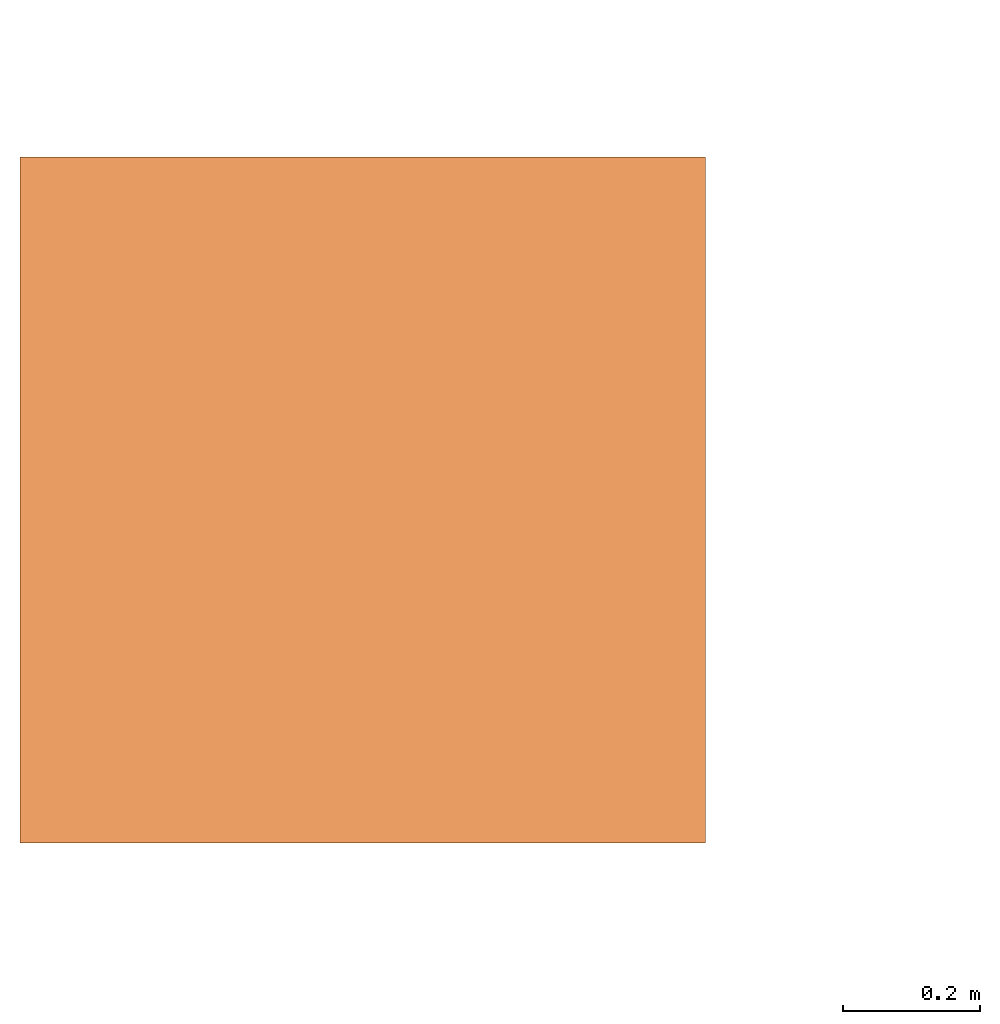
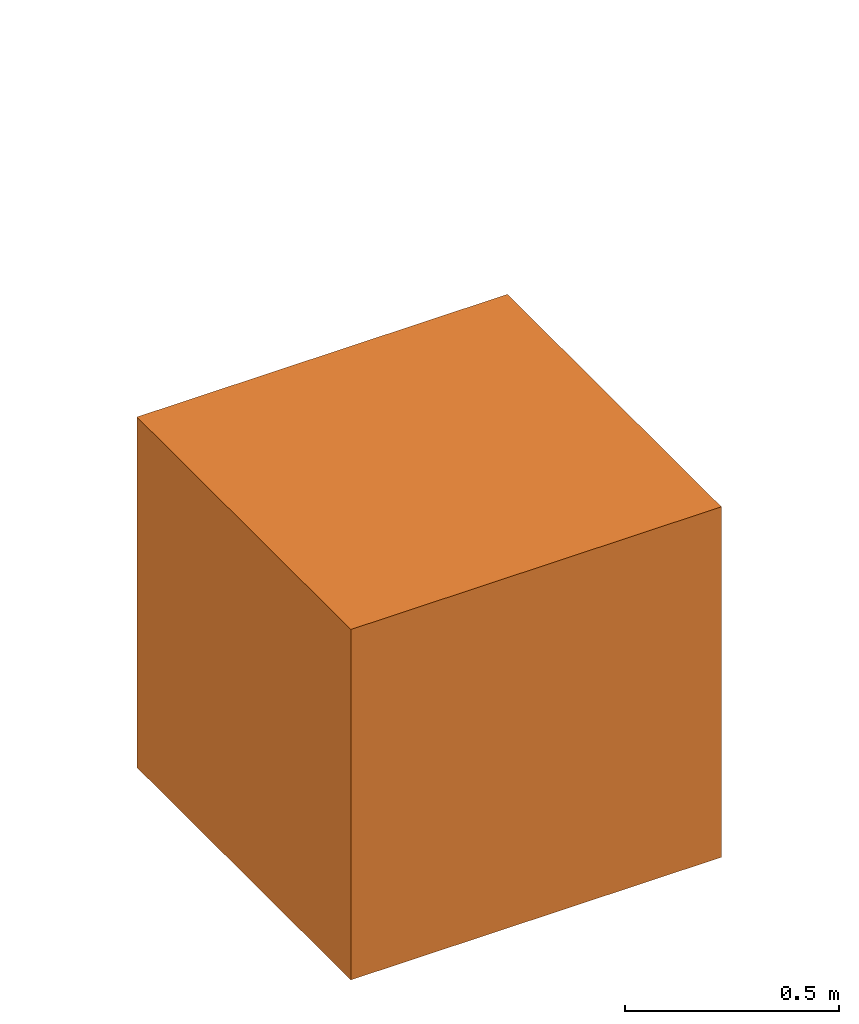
# One storey, part 287 of 301: 2 proxies.
"""IFC2X3 building model written with IfcOpenShell, lengths in millimetres."""

from ifc_helpers import new_model, entity, si_unit, converted_unit, derived_unit, money_unit, direction, frame, origin_with_axes, place, context, subcontext, project, spatial, faceted_brep, source, transform, mapped, type_object, element, save


model = new_model("IFC2X3")

# Units and contexts
model_context = context("Model", 3, precision=0.01, world=origin_with_axes(), true_north=direction((0.0, 1.0)))
body_context = subcontext(model_context, "Body", "Model", "MODEL_VIEW")
ifc_project = project(units=[si_unit("LENGTHUNIT", "METRE", prefix="MILLI"), si_unit("AREAUNIT", "SQUARE_METRE"), si_unit("VOLUMEUNIT", "CUBIC_METRE"), converted_unit("PLANEANGLEUNIT", "DEGREE", entity("IfcPlaneAngleMeasure", 0.0174532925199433), si_unit("PLANEANGLEUNIT", "RADIAN"), dimensions=[0, 0, 0, 0, 0, 0, 0]), money_unit("EUR"), converted_unit("TIMEUNIT", "Year", entity("IfcTimeMeasure", 31557600.0), si_unit("TIMEUNIT", "SECOND"), dimensions=[0, 0, 1, 0, 0, 0, 0]), si_unit("MASSUNIT", "GRAM", prefix="KILO"), si_unit("THERMODYNAMICTEMPERATUREUNIT", "DEGREE_CELSIUS"), si_unit("LUMINOUSINTENSITYUNIT", "LUMEN"), si_unit("ENERGYUNIT", "JOULE", prefix="MEGA"), derived_unit("THERMALCONDUCTANCEUNIT", [(si_unit("POWERUNIT", "WATT"), 1), (si_unit("LENGTHUNIT", "METRE"), -1), (si_unit("THERMODYNAMICTEMPERATUREUNIT", "KELVIN"), -1)]), derived_unit("SPECIFICHEATCAPACITYUNIT", [(si_unit("ENERGYUNIT", "JOULE"), 1), (si_unit("MASSUNIT", "GRAM", prefix="KILO"), -1), (si_unit("THERMODYNAMICTEMPERATUREUNIT", "KELVIN"), -1)]), derived_unit("MASSDENSITYUNIT", [(si_unit("MASSUNIT", "GRAM", prefix="KILO"), 1), (si_unit("VOLUMEUNIT", "CUBIC_METRE"), -1)])], contexts=[model_context])

# Site, building, storey
site_placement = place(None, frame((0.0, 0.0, 8650.0), z_axis=(0.0, 0.0, 1.0), x_axis=(1.0, 0.0, 0.0)))
site = spatial("IfcSite", under=ifc_project, at=site_placement, Name="43301:001:0844", CompositionType="ELEMENT")
building_placement = place(site_placement, origin_with_axes())
building = spatial("IfcBuilding", under=site, at=building_placement, Name="Kuressaare Ametikooli tuulikute mehaanikute õppekorpus", CompositionType="ELEMENT")
storey_placement = place(building_placement, origin_with_axes())
storey = spatial("IfcBuildingStorey", under=building, at=storey_placement, Name="1.korrus", CompositionType="ELEMENT", Elevation=0.0)

# Proxies
building_element_proxy_type = type_object("IfcBuildingElementProxyType", Name="Cube 27", PredefinedType="USERDEFINED")
shared_shape = source(origin_with_axes(), body_context, "Body", "Brep", [
    faceted_brep([(-1000.0, 0.0, 0.0), (-1000.0, 1000.0, 0.0), (0.0, 1000.0, 0.0), (0.0, 0.0, 0.0), (-1000.0, 0.0, 1000.0), (-1000.0, 1000.0, 1000.0), (0.0, 1000.0, 1000.0), (0.0, 0.0, 1000.0)], [[[0, 1, 2, 3]], [[0, 4, 5, 1]], [[1, 5, 6, 2]], [[2, 6, 7, 3]], [[3, 7, 4, 0]], [[7, 6, 5, 4]]]),
])
for number, where, z_axis, x_axis in (
    (1, (1000.000000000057, 0.0, -8650.0), (0.0, 0.0, 1.0), (1.0, 0.0, 0.0)),
    (2, (1000.000000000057, 0.0, -8650.0), (0.0, 0.0, 1.0), (1.0, 0.0, 0.0)),
):
    element("IfcBuildingElementProxy", number, at=place(storey_placement, frame(where, z_axis=z_axis, x_axis=x_axis)), inside=storey, type_object=building_element_proxy_type, Name="Projekti reeper", context=body_context, shape_type="MappedRepresentation", body=[
        mapped(shared_shape, transform((0.0, 0.0, 0.0))),
    ])

save(model, "model.ifc")
